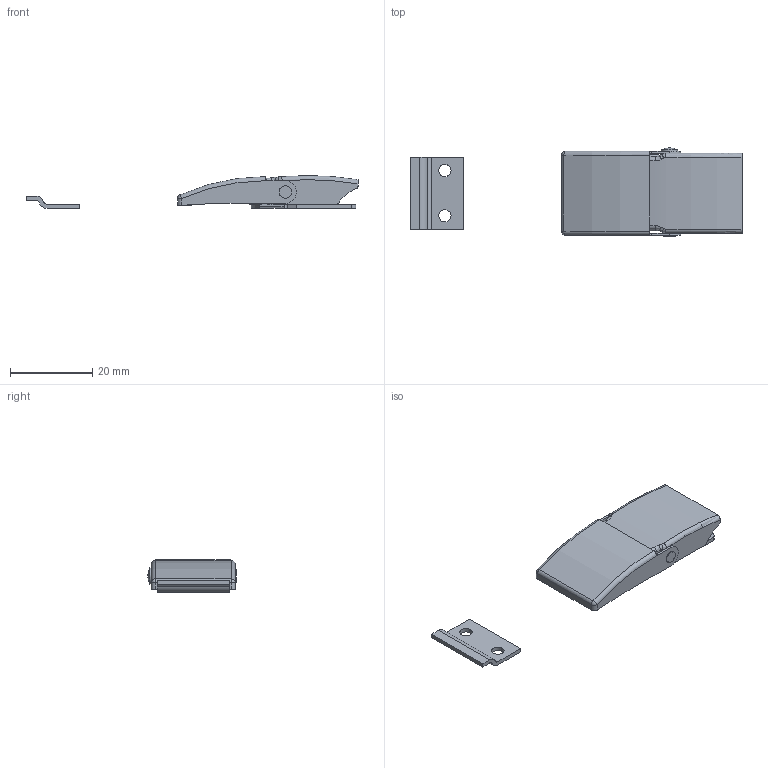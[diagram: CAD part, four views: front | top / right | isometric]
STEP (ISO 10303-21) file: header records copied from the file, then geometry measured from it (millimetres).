
FILE_DESCRIPTION(/* description */ (''),/* implementation_level */ '2;1');
FILE_NAME(/* name */ '\\NAS\db20\C-M29\DR_C-M29.stp',/* time_stamp */ '2018-03-01T14:57:19+09:00',/* author */ ('user'),/* organization */ (''),/* preprocessor_version */ 'ST-DEVELOPER v15.6',/* originating_system */ 'Autodesk Inventor 2015',/* authorisation */ '');
FILE_SCHEMA (('AUTOMOTIVE_DESIGN { 1 0 10303 214 3 1 1 }'));
Length unit declared in the file: millimetre
Products named in the file (5): DR_C-M29-BR; DR_C-M29-C; DR_C-M29-H; DR_C-M29-P; DR_C-M29
Bounding box: 80.84 x 21.5 x 8 mm (x, y, z)
Volume: 1919.7 mm3; surface area: 5667.3 mm2
Topology: 7 solids, 7 shells, 222 faces, 574 edges, 361 vertices
Faces by surface type: plane 92, cylinder 85, torus 21, bspline 16, sphere 7, cone 1
Full cylindrical faces by diameter (mm): 2 x1, 2.5 x5, 2.8 x1, 3 x11, 3.4 x1, 4 x1
Entity records: 7334 total; most frequent: CARTESIAN_POINT 1871, DIRECTION 1136, ORIENTED_EDGE 1074, EDGE_CURVE 537, AXIS2_PLACEMENT_3D 432, VERTEX_POINT 355, EDGE_LOOP 274, LINE 272
